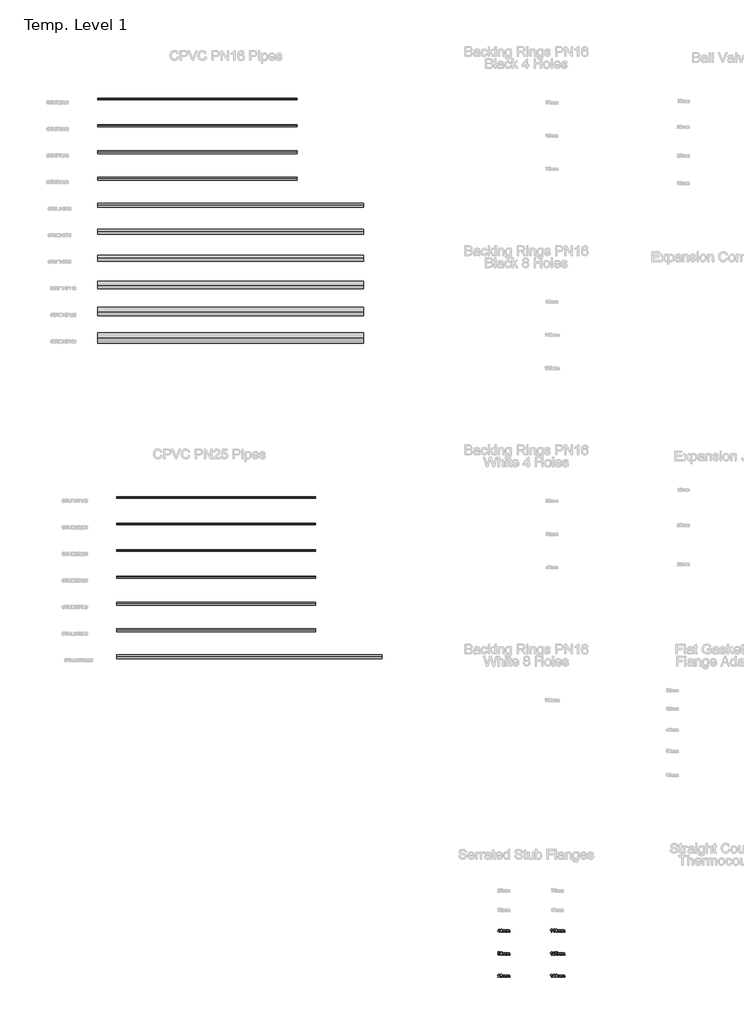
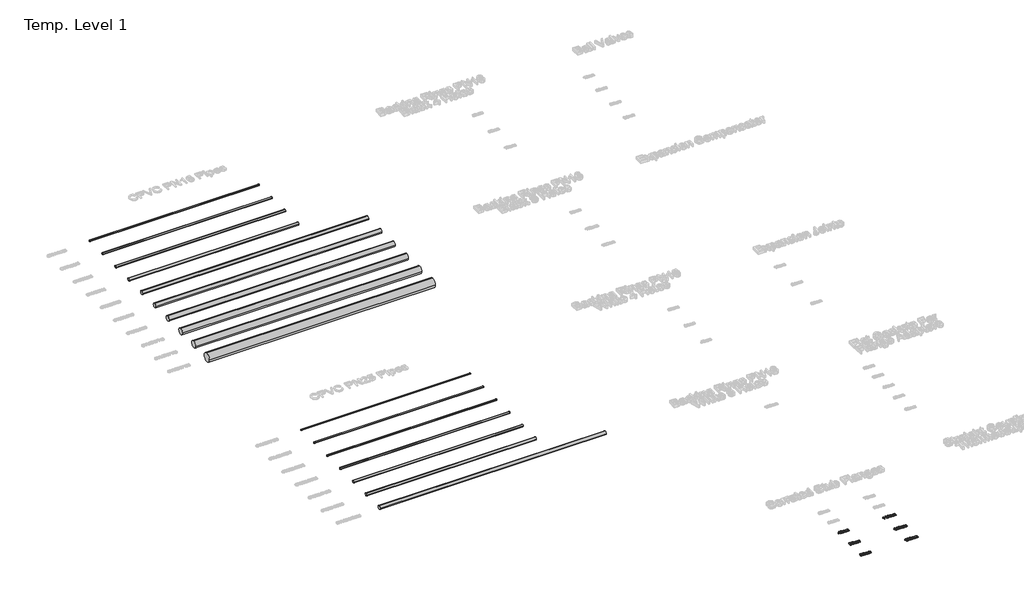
# One storey, part 1 of 62: 17 pipe segments, 6 proxies.
"""IFC4 building model written with IfcOpenShell, lengths in millimetres."""

import ifcopenshell
import ifcopenshell.guid

model = None  # the IFC model being written
_history = None  # IfcOwnerHistory: only IFC2X3 demands one
_inside = {}  # id of a spatial element -> (the spatial element, [elements in it])
_under = {}  # id of a project, library or spatial element -> (it, [spatial elements below it])
_declared = {}  # id of a project -> (the project, [libraries it declares])
_typed = {}  # id of a type object -> (the type object, [elements of that type])
_made_of = {}  # id of a material, layer set ... -> (it, [elements and type objects made of it])


def new_model(schema):
    """Start an empty IFC model of exactly this schema.

    Asked for "IFC4X3", IfcOpenShell would pick the latest addendum, in which some entities
    have other attributes; the version numbers below select the first issue.
    IFC2X3 requires an IfcOwnerHistory on every rooted entity: one is made here for all.
    """
    global model, _history
    if schema == "IFC4X3":
        model = ifcopenshell.file(schema_version=(4, 3, 0, 0))
    else:
        model = ifcopenshell.file(schema=schema)
    _inside.clear()
    _under.clear()
    _declared.clear()
    _typed.clear()
    _made_of.clear()
    _history = None
    if model.schema == "IFC2X3":
        org = make("IfcOrganization", Name="unknown")
        user = make(
            "IfcPersonAndOrganization",
            ThePerson=make("IfcPerson", FamilyName="unknown"),
            TheOrganization=org,
        )
        app = make(
            "IfcApplication",
            ApplicationDeveloper=org,
            Version="unknown",
            ApplicationFullName="unknown",
            ApplicationIdentifier="unknown",
        )
        _history = make(
            "IfcOwnerHistory",
            OwningUser=user,
            OwningApplication=app,
            ChangeAction="ADDED",
            CreationDate=0,
        )
    return model


def make(cls, **values):
    """One entity of the class cls with the attributes given. An attribute that is None is left unset."""
    return model.create_entity(
        cls, **{name: value for name, value in values.items() if value is not None}
    )


def rooted(cls, **values):
    """An entity with a GlobalId (a new one), such as an element, a storey or a relation."""
    return make(cls, GlobalId=ifcopenshell.guid.new(), OwnerHistory=_history, **values)


def si_unit(unit_type, name, prefix=None):
    """IfcSIUnit, for example si_unit("LENGTHUNIT", "METRE", prefix="MILLI")."""
    return make("IfcSIUnit", UnitType=unit_type, Prefix=prefix, Name=name)


def assignment(units):
    """IfcUnitAssignment: the units of a project."""
    return None if units is None else make("IfcUnitAssignment", Units=units)


def point(xyz):
    """IfcCartesianPoint."""
    return None if xyz is None else make("IfcCartesianPoint", Coordinates=xyz)


def direction(xyz):
    """IfcDirection."""
    return None if xyz is None else make("IfcDirection", DirectionRatios=xyz)


def frame(location, z_axis=None, x_axis=None):
    """IfcAxis2Placement3D, a coordinate frame: its origin and axes. An axis left out is left unset."""
    return make(
        "IfcAxis2Placement3D",
        Location=point(location),
        Axis=direction(z_axis),
        RefDirection=direction(x_axis),
    )


def frame_2d(location, x_axis=None):
    """IfcAxis2Placement2D, a coordinate frame in the plane: its origin and x axis."""
    return make(
        "IfcAxis2Placement2D", Location=point(location), RefDirection=direction(x_axis)
    )


def origin():
    """The frame at (0, 0, 0) with its axes left unset."""
    return frame((0.0, 0.0, 0.0))


def origin_with_axes():
    """The frame at (0, 0, 0) with the z axis (0, 0, 1) and the x axis (1, 0, 0) written out."""
    return frame((0.0, 0.0, 0.0), z_axis=(0.0, 0.0, 1.0), x_axis=(1.0, 0.0, 0.0))


def place(relative_to, where):
    """IfcLocalPlacement: puts the frame where relative to a parent placement (None: the world)."""
    return make(
        "IfcLocalPlacement", PlacementRelTo=relative_to, RelativePlacement=where
    )


def context(
    kind, dimensions, precision=None, world=None, true_north=None, identifier=None
):
    """IfcGeometricRepresentationContext, for example the 3D "Model" context."""
    return make(
        "IfcGeometricRepresentationContext",
        ContextIdentifier=identifier,
        ContextType=kind,
        CoordinateSpaceDimension=dimensions,
        Precision=precision,
        WorldCoordinateSystem=world,
        TrueNorth=true_north,
    )


def project(units=None, contexts=None):
    """IfcProject with its units and contexts."""
    return rooted(
        "IfcProject",
        Name="project",
        RepresentationContexts=contexts,
        UnitsInContext=assignment(units),
    )


def spatial(cls, under=None, at=None, **own):
    """A site, building, storey or space (cls), placed at a placement, below another one or the project."""
    s = rooted(cls, ObjectPlacement=at, **own)
    if under is not None:
        _under.setdefault(under.id(), (under, []))[1].append(s)
    return s


def polyline(points):
    """IfcPolyline through the points."""
    return make("IfcPolyline", Points=[point(p) for p in points])


def circle_curve(where, radius):
    """IfcCircle in the frame where."""
    return make("IfcCircle", Position=where, Radius=radius)


def trimmed(basis, trim1, trim2, sense, master):
    """IfcTrimmedCurve: the piece of a basis curve between two trims."""
    return make(
        "IfcTrimmedCurve",
        BasisCurve=basis,
        Trim1=trim1,
        Trim2=trim2,
        SenseAgreement=sense,
        MasterRepresentation=master,
    )


def segment(curve, same_sense, transition):
    """IfcCompositeCurveSegment."""
    return make(
        "IfcCompositeCurveSegment",
        Transition=transition,
        SameSense=same_sense,
        ParentCurve=curve,
    )


def composite_curve(segments, self_intersect=None):
    """IfcCompositeCurve: segments joined end to end."""
    return make("IfcCompositeCurve", Segments=segments, SelfIntersect=self_intersect)


def outline(outer, holes=None, kind="AREA"):
    """IfcArbitraryClosedProfileDef: a profile drawn as a closed curve; with holes, ...WithVoids."""
    if holes is None:
        return make("IfcArbitraryClosedProfileDef", ProfileType=kind, OuterCurve=outer)
    return make(
        "IfcArbitraryProfileDefWithVoids",
        ProfileType=kind,
        OuterCurve=outer,
        InnerCurves=holes,
    )


def extrude(swept, where, along, depth):
    """IfcExtrudedAreaSolid: the profile swept, set in the frame where, extruded along a direction by depth."""
    return make(
        "IfcExtrudedAreaSolid",
        SweptArea=swept,
        Position=where,
        ExtrudedDirection=direction(along),
        Depth=depth,
    )


def shape(context_of_items, identifier, shape_type, items):
    """IfcShapeRepresentation: the items that make up one representation, for example the "Body"."""
    return make(
        "IfcShapeRepresentation",
        ContextOfItems=context_of_items,
        RepresentationIdentifier=identifier,
        RepresentationType=shape_type,
        Items=items,
    )


def made_of(thing, what):
    """Note that an element or type object is made of a material, layer set ...; save() writes the relation."""
    if what is not None:
        _made_of.setdefault(what.id(), (what, []))[1].append(thing)
    return thing


def element(
    cls,
    number,
    at=None,
    inside=None,
    cuts=None,
    type_object=None,
    material=None,
    context=None,
    identifier="Body",
    shape_type=None,
    held_by="IfcProductDefinitionShape",
    body=None,
    shapes=None,
    **own,
):
    """One element of the class cls, such as IfcWall. Its Tag is "e" and its number.

    at: its placement. inside: the storey or other place that contains it. cuts: it is an
    opening in that element (IfcRelVoidsElement). A single representation is given by context,
    identifier, shape_type and body (its items); several are given by shapes. held_by: the class
    of the entity that holds the representations. save() writes the other relations.
    """
    e = rooted(cls, Tag="e%d" % number, ObjectPlacement=at, **own)
    if body is not None:
        shapes = [shape(context, identifier, shape_type, body)]
    if shapes is not None:
        e.Representation = make(held_by, Representations=shapes)
    if inside is not None:
        _inside.setdefault(inside.id(), (inside, []))[1].append(e)
    if cuts is not None:
        rooted(
            "IfcRelVoidsElement", RelatingBuildingElement=cuts, RelatedOpeningElement=e
        )
    if type_object is not None:
        _typed.setdefault(type_object.id(), (type_object, []))[1].append(e)
    return made_of(e, material)


def aggregate(whole, parts):
    """IfcRelAggregates: a whole, such as a stair, and the parts it consists of."""
    return rooted("IfcRelAggregates", RelatingObject=whole, RelatedObjects=parts)


def save(model, path):
    """Write the relations noted so far, then the file.

    IfcRelAggregates (storeys below a building ...), IfcRelContainedInSpatialStructure (elements
    in a storey), IfcRelDefinesByType, IfcRelAssociatesMaterial and IfcRelDeclares: one each for
    every whole, place, type object, material and project.
    """
    for whole, parts in _under.values():
        aggregate(whole, parts)
    for where, things in _inside.values():
        rooted(
            "IfcRelContainedInSpatialStructure",
            RelatedElements=things,
            RelatingStructure=where,
        )
    for kind, things in _typed.values():
        rooted("IfcRelDefinesByType", RelatedObjects=things, RelatingType=kind)
    for what, things in _made_of.values():
        rooted("IfcRelAssociatesMaterial", RelatedObjects=things, RelatingMaterial=what)
    for by, libraries in _declared.values():
        rooted("IfcRelDeclares", RelatingContext=by, RelatedDefinitions=libraries)
    model.write(path)


model = new_model("IFC4")

# Units and contexts
model_context = context("Model", 3, world=origin())
ifc_project = project(units=[si_unit("LENGTHUNIT", "METRE", prefix="MILLI")], contexts=[model_context])

# Site, building, storey
site = spatial("IfcSite", under=ifc_project)
building = spatial("IfcBuilding", under=site)
storey = spatial("IfcBuildingStorey", under=building, Name="Temp. Level 1", Elevation=0.0)

# Proxies
placement = place(None, origin())
element("IfcBuildingElementProxy", 1, Name="50mm Arial", ObjectType="50mm Arial", at=placement, inside=storey, context=model_context, shape_type="SweptSolid", body=[
    extrude(outline(polyline([(9009.112461, -11170.198517), (9009.112461, -11158.6600555), (8986.8047687, -11158.6600555), (8986.8047687, -11152.5062093), (9010.6509225, -11121.7369786), (9015.2663072, -11121.7369786), (9015.2663072, -11152.5062093), (9021.4201533, -11152.5062093), (9021.4201533, -11158.6600555), (9015.2663072, -11158.6600555), (9015.2663072, -11170.198517), (9009.112461, -11170.198517)]), holes=[polyline([(9009.112461, -11152.5062093), (9009.112461, -11133.4917862), (8994.3768841, -11152.5062093), (9009.112461, -11152.5062093)])]), origin_with_axes(), (0.0, 0.0, 1.0), 15.0),
    extrude(outline(polyline([(9026.8047687, -11145.979767), (9028.6136629, -11131.8151036), (9033.9862591, -11123.6480362), (9042.9586149, -11120.9677478), (9050.1461149, -11122.5542862), (9055.1100572, -11127.1276036), (9057.9946725, -11134.4112574), (9059.112461, -11145.979767), (9057.3215956, -11160.0843343), (9051.9670283, -11168.2694305), (9042.9586149, -11170.9677478), (9031.7086149, -11166.2802478), (9028.0307302, -11157.9539257), (9026.8047687, -11145.979767)]), holes=[polyline([(9032.9586149, -11145.9677478), (9035.8432302, -11161.2501997), (9042.9586149, -11164.8139016), (9050.0739995, -11161.2381805), (9052.9586149, -11145.9677478), (9050.1701533, -11130.8595747), (9042.8864995, -11127.1215939), (9035.9393841, -11130.4148632), (9032.9586149, -11145.9677478)])]), origin_with_axes(), (0.0, 0.0, 1.0), 15.0),
    extrude(outline(polyline([(9066.0355379, -11170.198517), (9066.0355379, -11134.0446709), (9072.1893841, -11134.0446709), (9072.1893841, -11139.9941901), (9076.4201533, -11135.120392), (9082.4417879, -11133.2754401), (9088.6076533, -11135.1564497), (9091.9970764, -11140.4268824), (9096.7987591, -11135.0633007), (9102.862461, -11133.2754401), (9110.909336, -11136.2501997), (9113.7278456, -11145.4148632), (9113.7278456, -11170.198517), (9107.5739995, -11170.198517), (9107.5739995, -11148.0590939), (9107.003086, -11142.9208728), (9104.9357783, -11140.3908247), (9101.4201533, -11139.4292862), (9095.3684706, -11141.8932286), (9092.9586149, -11149.7898632), (9092.9586149, -11170.198517), (9086.8047687, -11170.198517), (9086.8047687, -11147.3739978), (9085.3804899, -11141.4124593), (9080.7110187, -11139.4292862), (9076.1557302, -11140.7514016), (9073.1268841, -11144.6215939), (9072.1893841, -11151.9653439), (9072.1893841, -11170.198517), (9066.0355379, -11170.198517)])), origin_with_axes(), (0.0, 0.0, 1.0), 15.0),
    extrude(outline(polyline([(9122.9586149, -11170.198517), (9122.9586149, -11134.0446709), (9129.112461, -11134.0446709), (9129.112461, -11139.9941901), (9133.3432302, -11135.120392), (9139.3648649, -11133.2754401), (9145.5307302, -11135.1564497), (9148.9201533, -11140.4268824), (9153.721836, -11135.0633007), (9159.7855379, -11133.2754401), (9167.8324129, -11136.2501997), (9170.6509225, -11145.4148632), (9170.6509225, -11170.198517), (9164.4970764, -11170.198517), (9164.4970764, -11148.0590939), (9163.9261629, -11142.9208728), (9161.8588552, -11140.3908247), (9158.3432302, -11139.4292862), (9152.2915475, -11141.8932286), (9149.8816918, -11149.7898632), (9149.8816918, -11170.198517), (9143.7278456, -11170.198517), (9143.7278456, -11147.3739978), (9142.3035668, -11141.4124593), (9137.6340956, -11139.4292862), (9133.0788072, -11140.7514016), (9130.049961, -11144.6215939), (9129.112461, -11151.9653439), (9129.112461, -11170.198517), (9122.9586149, -11170.198517)])), origin_with_axes(), (0.0, 0.0, 1.0), 15.0),
])
element("IfcBuildingElementProxy", 2, Name="50mm Arial", ObjectType="50mm Arial", at=placement, inside=storey, context=model_context, shape_type="SweptSolid", body=[
    extrude(outline(polyline([(8989.112461, -11502.1215939), (8995.2663072, -11501.3523632), (8998.3672687, -11507.6925074), (9004.7975572, -11509.8139016), (9012.5139033, -11506.8631805), (9015.2663072, -11499.0326516), (9012.6881822, -11491.7249593), (9004.893711, -11489.0446709), (8999.4910668, -11490.1143824), (8996.0355379, -11492.8908247), (8989.8816918, -11492.1215939), (8995.2663072, -11466.7369786), (9019.112461, -11466.7369786), (9019.112461, -11472.8908247), (9000.2422687, -11472.8908247), (8997.6100572, -11486.448517), (9006.612461, -11482.8908247), (9017.1352975, -11487.3018824), (9021.4201533, -11498.6480362), (9017.5619802, -11510.0663055), (9012.0211149, -11514.4923872), (9004.7735187, -11515.9677478), (8993.9141437, -11512.1756805), (8989.112461, -11502.1215939)])), origin_with_axes(), (0.0, 0.0, 1.0), 15.0),
    extrude(outline(polyline([(9026.8047687, -11490.979767), (9028.6136629, -11476.8151036), (9033.9862591, -11468.6480362), (9042.9586149, -11465.9677478), (9050.1461149, -11467.5542862), (9055.1100572, -11472.1276036), (9057.9946725, -11479.4112574), (9059.112461, -11490.979767), (9057.3215956, -11505.0843343), (9051.9670283, -11513.2694305), (9042.9586149, -11515.9677478), (9031.7086149, -11511.2802478), (9028.0307302, -11502.9539257), (9026.8047687, -11490.979767)]), holes=[polyline([(9032.9586149, -11490.9677478), (9035.8432302, -11506.2501997), (9042.9586149, -11509.8139016), (9050.0739995, -11506.2381805), (9052.9586149, -11490.9677478), (9050.1701533, -11475.8595747), (9042.8864995, -11472.1215939), (9035.9393841, -11475.4148632), (9032.9586149, -11490.9677478)])]), origin_with_axes(), (0.0, 0.0, 1.0), 15.0),
    extrude(outline(polyline([(9066.0355379, -11515.198517), (9066.0355379, -11479.0446709), (9072.1893841, -11479.0446709), (9072.1893841, -11484.9941901), (9076.4201533, -11480.120392), (9082.4417879, -11478.2754401), (9088.6076533, -11480.1564497), (9091.9970764, -11485.4268824), (9096.7987591, -11480.0633007), (9102.862461, -11478.2754401), (9110.909336, -11481.2501997), (9113.7278456, -11490.4148632), (9113.7278456, -11515.198517), (9107.5739995, -11515.198517), (9107.5739995, -11493.0590939), (9107.003086, -11487.9208728), (9104.9357783, -11485.3908247), (9101.4201533, -11484.4292862), (9095.3684706, -11486.8932286), (9092.9586149, -11494.7898632), (9092.9586149, -11515.198517), (9086.8047687, -11515.198517), (9086.8047687, -11492.3739978), (9085.3804899, -11486.4124593), (9080.7110187, -11484.4292862), (9076.1557302, -11485.7514016), (9073.1268841, -11489.6215939), (9072.1893841, -11496.9653439), (9072.1893841, -11515.198517), (9066.0355379, -11515.198517)])), origin_with_axes(), (0.0, 0.0, 1.0), 15.0),
    extrude(outline(polyline([(9122.9586149, -11515.198517), (9122.9586149, -11479.0446709), (9129.112461, -11479.0446709), (9129.112461, -11484.9941901), (9133.3432302, -11480.120392), (9139.3648649, -11478.2754401), (9145.5307302, -11480.1564497), (9148.9201533, -11485.4268824), (9153.721836, -11480.0633007), (9159.7855379, -11478.2754401), (9167.8324129, -11481.2501997), (9170.6509225, -11490.4148632), (9170.6509225, -11515.198517), (9164.4970764, -11515.198517), (9164.4970764, -11493.0590939), (9163.9261629, -11487.9208728), (9161.8588552, -11485.3908247), (9158.3432302, -11484.4292862), (9152.2915475, -11486.8932286), (9149.8816918, -11494.7898632), (9149.8816918, -11515.198517), (9143.7278456, -11515.198517), (9143.7278456, -11492.3739978), (9142.3035668, -11486.4124593), (9137.6340956, -11484.4292862), (9133.0788072, -11485.7514016), (9130.049961, -11489.6215939), (9129.112461, -11496.9653439), (9129.112461, -11515.198517), (9122.9586149, -11515.198517)])), origin_with_axes(), (0.0, 0.0, 1.0), 15.0),
])
element("IfcBuildingElementProxy", 3, Name="50mm Arial", ObjectType="50mm Arial", at=placement, inside=storey, context=model_context, shape_type="SweptSolid", body=[
    extrude(outline(polyline([(9020.6509225, -11814.0446709), (9014.4970764, -11814.8139016), (9012.1653456, -11809.6816901), (9005.9994802, -11807.1215939), (9000.4465956, -11808.6119786), (8996.2458745, -11814.2069305), (8994.4970764, -11825.1744786), (8999.9237591, -11820.2646228), (9006.6485187, -11818.6600555), (9017.1052495, -11823.0470747), (9021.4201533, -11834.3812093), (9019.3889033, -11842.8727959), (9013.799961, -11848.8824112), (9005.7350572, -11850.9677478), (8993.1929899, -11845.4389016), (8989.5556701, -11838.1191901), (8988.3432302, -11827.2177478), (8989.6893841, -11814.9611372), (8993.7278456, -11806.5807286), (8999.2416677, -11802.370993), (9006.3840956, -11800.9677478), (9016.1076533, -11804.4413055), (9020.6509225, -11814.0446709)]), holes=[polyline([(8994.4970764, -11834.2850555), (8995.9213552, -11839.6155843), (8999.7074129, -11843.4857766), (9005.2542879, -11844.8139016), (9012.5078937, -11842.0614978), (9015.2663072, -11834.5855362), (9012.5439514, -11827.4280843), (9005.0018841, -11824.8139016), (8997.5559706, -11827.4280843), (8994.4970764, -11834.2850555)])]), origin_with_axes(), (0.0, 0.0, 1.0), 15.0),
    extrude(outline(polyline([(9026.8047687, -11837.1215939), (9032.9586149, -11836.3523632), (9036.3540475, -11842.8307286), (9042.706211, -11844.8139016), (9050.1821725, -11842.0855362), (9052.9586149, -11835.3307286), (9050.206211, -11828.9665459), (9043.2110187, -11826.448517), (9038.8961149, -11827.1215939), (9039.581211, -11820.9677478), (9047.549961, -11819.2730362), (9050.6509225, -11813.8403439), (9048.4033264, -11809.026642), (9042.6100572, -11807.1215939), (9036.7446725, -11809.0446709), (9033.7278456, -11814.8139016), (9027.5739995, -11814.0446709), (9032.6100572, -11804.3932286), (9042.393711, -11800.9677478), (9049.815586, -11802.6564497), (9055.0078937, -11807.2718343), (9056.8047687, -11813.479767), (9055.0980379, -11819.1528439), (9050.049961, -11823.2273632), (9056.7566918, -11827.4340939), (9059.112461, -11835.4389016), (9054.4009225, -11846.448517), (9042.4898649, -11850.9677478), (9031.6965956, -11847.1095747), (9026.8047687, -11837.1215939)])), origin_with_axes(), (0.0, 0.0, 1.0), 15.0),
    extrude(outline(polyline([(9066.0355379, -11850.198517), (9066.0355379, -11814.0446709), (9072.1893841, -11814.0446709), (9072.1893841, -11819.9941901), (9076.4201533, -11815.120392), (9082.4417879, -11813.2754401), (9088.6076533, -11815.1564497), (9091.9970764, -11820.4268824), (9096.7987591, -11815.0633007), (9102.862461, -11813.2754401), (9110.909336, -11816.2501997), (9113.7278456, -11825.4148632), (9113.7278456, -11850.198517), (9107.5739995, -11850.198517), (9107.5739995, -11828.0590939), (9107.003086, -11822.9208728), (9104.9357783, -11820.3908247), (9101.4201533, -11819.4292862), (9095.3684706, -11821.8932286), (9092.9586149, -11829.7898632), (9092.9586149, -11850.198517), (9086.8047687, -11850.198517), (9086.8047687, -11827.3739978), (9085.3804899, -11821.4124593), (9080.7110187, -11819.4292862), (9076.1557302, -11820.7514016), (9073.1268841, -11824.6215939), (9072.1893841, -11831.9653439), (9072.1893841, -11850.198517), (9066.0355379, -11850.198517)])), origin_with_axes(), (0.0, 0.0, 1.0), 15.0),
    extrude(outline(polyline([(9122.9586149, -11850.198517), (9122.9586149, -11814.0446709), (9129.112461, -11814.0446709), (9129.112461, -11819.9941901), (9133.3432302, -11815.120392), (9139.3648649, -11813.2754401), (9145.5307302, -11815.1564497), (9148.9201533, -11820.4268824), (9153.721836, -11815.0633007), (9159.7855379, -11813.2754401), (9167.8324129, -11816.2501997), (9170.6509225, -11825.4148632), (9170.6509225, -11850.198517), (9164.4970764, -11850.198517), (9164.4970764, -11828.0590939), (9163.9261629, -11822.9208728), (9161.8588552, -11820.3908247), (9158.3432302, -11819.4292862), (9152.2915475, -11821.8932286), (9149.8816918, -11829.7898632), (9149.8816918, -11850.198517), (9143.7278456, -11850.198517), (9143.7278456, -11827.3739978), (9142.3035668, -11821.4124593), (9137.6340956, -11819.4292862), (9133.0788072, -11820.7514016), (9130.049961, -11824.6215939), (9129.112461, -11831.9653439), (9129.112461, -11850.198517), (9122.9586149, -11850.198517)])), origin_with_axes(), (0.0, 0.0, 1.0), 15.0),
])
element("IfcBuildingElementProxy", 4, Name="50mm Arial", ObjectType="50mm Arial", at=placement, inside=storey, context=model_context, shape_type="SweptSolid", body=[
    extrude(outline(polyline([(9803.3432302, -11170.198517), (9797.1893841, -11170.198517), (9797.1893841, -11131.8331324), (9791.3600572, -11135.9857766), (9784.8816918, -11139.0927478), (9784.8816918, -11133.2754401), (9793.9021245, -11127.5182286), (9799.3768841, -11120.9677478), (9803.3432302, -11120.9677478), (9803.3432302, -11170.198517)])), origin_with_axes(), (0.0, 0.0, 1.0), 15.0),
    extrude(outline(polyline([(9841.0355379, -11170.198517), (9834.8816918, -11170.198517), (9834.8816918, -11131.8331324), (9829.0523649, -11135.9857766), (9822.5739995, -11139.0927478), (9822.5739995, -11133.2754401), (9831.5944322, -11127.5182286), (9837.0691918, -11120.9677478), (9841.0355379, -11120.9677478), (9841.0355379, -11170.198517)])), origin_with_axes(), (0.0, 0.0, 1.0), 15.0),
    extrude(outline(polyline([(9855.6509225, -11145.979767), (9857.4598168, -11131.8151036), (9862.8324129, -11123.6480362), (9871.8047687, -11120.9677478), (9878.9922687, -11122.5542862), (9883.956211, -11127.1276036), (9886.8408264, -11134.4112574), (9887.9586149, -11145.979767), (9886.1677495, -11160.0843343), (9880.8131822, -11168.2694305), (9871.8047687, -11170.9677478), (9860.5547687, -11166.2802478), (9856.8768841, -11157.9539257), (9855.6509225, -11145.979767)]), holes=[polyline([(9861.8047687, -11145.9677478), (9864.6893841, -11161.2501997), (9871.8047687, -11164.8139016), (9878.9201533, -11161.2381805), (9881.8047687, -11145.9677478), (9879.0163072, -11130.8595747), (9871.7326533, -11127.1215939), (9864.7855379, -11130.4148632), (9861.8047687, -11145.9677478)])]), origin_with_axes(), (0.0, 0.0, 1.0), 15.0),
    extrude(outline(polyline([(9894.8816918, -11170.198517), (9894.8816918, -11134.0446709), (9901.0355379, -11134.0446709), (9901.0355379, -11139.9941901), (9905.2663072, -11135.120392), (9911.2879418, -11133.2754401), (9917.4538072, -11135.1564497), (9920.8432302, -11140.4268824), (9925.6449129, -11135.0633007), (9931.7086149, -11133.2754401), (9939.7554899, -11136.2501997), (9942.5739995, -11145.4148632), (9942.5739995, -11170.198517), (9936.4201533, -11170.198517), (9936.4201533, -11148.0590939), (9935.8492399, -11142.9208728), (9933.7819322, -11140.3908247), (9930.2663072, -11139.4292862), (9924.2146245, -11141.8932286), (9921.8047687, -11149.7898632), (9921.8047687, -11170.198517), (9915.6509225, -11170.198517), (9915.6509225, -11147.3739978), (9914.2266437, -11141.4124593), (9909.5571725, -11139.4292862), (9905.0018841, -11140.7514016), (9901.9730379, -11144.6215939), (9901.0355379, -11151.9653439), (9901.0355379, -11170.198517), (9894.8816918, -11170.198517)])), origin_with_axes(), (0.0, 0.0, 1.0), 15.0),
    extrude(outline(polyline([(9951.8047687, -11170.198517), (9951.8047687, -11134.0446709), (9957.9586149, -11134.0446709), (9957.9586149, -11139.9941901), (9962.1893841, -11135.120392), (9968.2110187, -11133.2754401), (9974.3768841, -11135.1564497), (9977.7663072, -11140.4268824), (9982.5679899, -11135.0633007), (9988.6316918, -11133.2754401), (9996.6785668, -11136.2501997), (9999.4970764, -11145.4148632), (9999.4970764, -11170.198517), (9993.3432302, -11170.198517), (9993.3432302, -11148.0590939), (9992.7723168, -11142.9208728), (9990.7050091, -11140.3908247), (9987.1893841, -11139.4292862), (9981.1377014, -11141.8932286), (9978.7278456, -11149.7898632), (9978.7278456, -11170.198517), (9972.5739995, -11170.198517), (9972.5739995, -11147.3739978), (9971.1497206, -11141.4124593), (9966.4802495, -11139.4292862), (9961.924961, -11140.7514016), (9958.8961149, -11144.6215939), (9957.9586149, -11151.9653439), (9957.9586149, -11170.198517), (9951.8047687, -11170.198517)])), origin_with_axes(), (0.0, 0.0, 1.0), 15.0),
])
element("IfcBuildingElementProxy", 5, Name="50mm Arial", ObjectType="50mm Arial", at=placement, inside=storey, context=model_context, shape_type="SweptSolid", body=[
    extrude(outline(polyline([(9803.3432302, -11515.198517), (9797.1893841, -11515.198517), (9797.1893841, -11476.8331324), (9791.3600572, -11480.9857766), (9784.8816918, -11484.0927478), (9784.8816918, -11478.2754401), (9793.9021245, -11472.5182286), (9799.3768841, -11465.9677478), (9803.3432302, -11465.9677478), (9803.3432302, -11515.198517)])), origin_with_axes(), (0.0, 0.0, 1.0), 15.0),
    extrude(outline(polyline([(9849.4970764, -11509.0446709), (9849.4970764, -11515.198517), (9817.1893841, -11515.198517), (9817.8504418, -11510.9557286), (9821.5884225, -11504.4232766), (9829.2927495, -11497.2898632), (9839.9177495, -11487.0374593), (9842.5739995, -11480.0663055), (9840.0679899, -11474.4232766), (9833.5235187, -11472.1215939), (9826.7026052, -11474.3691901), (9824.112461, -11480.5831324), (9817.9586149, -11479.8139016), (9822.6761629, -11469.5134209), (9833.6557302, -11465.9677478), (9844.6713552, -11469.9100555), (9848.7278456, -11479.6937093), (9847.6340956, -11485.5290459), (9843.9982783, -11491.5626997), (9835.1821725, -11499.9941901), (9828.1028456, -11505.9136612), (9825.3264033, -11509.0446709), (9849.4970764, -11509.0446709)])), origin_with_axes(), (0.0, 0.0, 1.0), 15.0),
    extrude(outline(polyline([(9855.6509225, -11502.1215939), (9861.8047687, -11501.3523632), (9864.9057302, -11507.6925074), (9871.3360187, -11509.8139016), (9879.0523649, -11506.8631805), (9881.8047687, -11499.0326516), (9879.2266437, -11491.7249593), (9871.4321725, -11489.0446709), (9866.0295283, -11490.1143824), (9862.5739995, -11492.8908247), (9856.4201533, -11492.1215939), (9861.8047687, -11466.7369786), (9885.6509225, -11466.7369786), (9885.6509225, -11472.8908247), (9866.7807302, -11472.8908247), (9864.1485187, -11486.448517), (9873.1509225, -11482.8908247), (9883.6737591, -11487.3018824), (9887.9586149, -11498.6480362), (9884.1004418, -11510.0663055), (9878.5595764, -11514.4923872), (9871.3119802, -11515.9677478), (9860.4526052, -11512.1756805), (9855.6509225, -11502.1215939)])), origin_with_axes(), (0.0, 0.0, 1.0), 15.0),
    extrude(outline(polyline([(9894.8816918, -11515.198517), (9894.8816918, -11479.0446709), (9901.0355379, -11479.0446709), (9901.0355379, -11484.9941901), (9905.2663072, -11480.120392), (9911.2879418, -11478.2754401), (9917.4538072, -11480.1564497), (9920.8432302, -11485.4268824), (9925.6449129, -11480.0633007), (9931.7086149, -11478.2754401), (9939.7554899, -11481.2501997), (9942.5739995, -11490.4148632), (9942.5739995, -11515.198517), (9936.4201533, -11515.198517), (9936.4201533, -11493.0590939), (9935.8492399, -11487.9208728), (9933.7819322, -11485.3908247), (9930.2663072, -11484.4292862), (9924.2146245, -11486.8932286), (9921.8047687, -11494.7898632), (9921.8047687, -11515.198517), (9915.6509225, -11515.198517), (9915.6509225, -11492.3739978), (9914.2266437, -11486.4124593), (9909.5571725, -11484.4292862), (9905.0018841, -11485.7514016), (9901.9730379, -11489.6215939), (9901.0355379, -11496.9653439), (9901.0355379, -11515.198517), (9894.8816918, -11515.198517)])), origin_with_axes(), (0.0, 0.0, 1.0), 15.0),
    extrude(outline(polyline([(9951.8047687, -11515.198517), (9951.8047687, -11479.0446709), (9957.9586149, -11479.0446709), (9957.9586149, -11484.9941901), (9962.1893841, -11480.120392), (9968.2110187, -11478.2754401), (9974.3768841, -11480.1564497), (9977.7663072, -11485.4268824), (9982.5679899, -11480.0633007), (9988.6316918, -11478.2754401), (9996.6785668, -11481.2501997), (9999.4970764, -11490.4148632), (9999.4970764, -11515.198517), (9993.3432302, -11515.198517), (9993.3432302, -11493.0590939), (9992.7723168, -11487.9208728), (9990.7050091, -11485.3908247), (9987.1893841, -11484.4292862), (9981.1377014, -11486.8932286), (9978.7278456, -11494.7898632), (9978.7278456, -11515.198517), (9972.5739995, -11515.198517), (9972.5739995, -11492.3739978), (9971.1497206, -11486.4124593), (9966.4802495, -11484.4292862), (9961.924961, -11485.7514016), (9958.8961149, -11489.6215939), (9957.9586149, -11496.9653439), (9957.9586149, -11515.198517), (9951.8047687, -11515.198517)])), origin_with_axes(), (0.0, 0.0, 1.0), 15.0),
])
element("IfcBuildingElementProxy", 6, Name="50mm Arial", ObjectType="50mm Arial", at=placement, inside=storey, context=model_context, shape_type="SweptSolid", body=[
    extrude(outline(polyline([(9803.3432302, -11850.198517), (9797.1893841, -11850.198517), (9797.1893841, -11811.8331324), (9791.3600572, -11815.9857766), (9784.8816918, -11819.0927478), (9784.8816918, -11813.2754401), (9793.9021245, -11807.5182286), (9799.3768841, -11800.9677478), (9803.3432302, -11800.9677478), (9803.3432302, -11850.198517)])), origin_with_axes(), (0.0, 0.0, 1.0), 15.0),
    extrude(outline(polyline([(9849.4970764, -11814.0446709), (9843.3432302, -11814.8139016), (9841.0114995, -11809.6816901), (9834.8456341, -11807.1215939), (9829.2927495, -11808.6119786), (9825.0920283, -11814.2069305), (9823.3432302, -11825.1744786), (9828.7699129, -11820.2646228), (9835.4946725, -11818.6600555), (9845.9514033, -11823.0470747), (9850.2663072, -11834.3812093), (9848.2350572, -11842.8727959), (9842.6461149, -11848.8824112), (9834.581211, -11850.9677478), (9822.0391437, -11845.4389016), (9818.401824, -11838.1191901), (9817.1893841, -11827.2177478), (9818.5355379, -11814.9611372), (9822.5739995, -11806.5807286), (9828.0878216, -11802.370993), (9835.2302495, -11800.9677478), (9844.9538072, -11804.4413055), (9849.4970764, -11814.0446709)]), holes=[polyline([(9823.3432302, -11834.2850555), (9824.7675091, -11839.6155843), (9828.5535668, -11843.4857766), (9834.1004418, -11844.8139016), (9841.3540475, -11842.0614978), (9844.112461, -11834.5855362), (9841.3901052, -11827.4280843), (9833.8480379, -11824.8139016), (9826.4021245, -11827.4280843), (9823.3432302, -11834.2850555)])]), origin_with_axes(), (0.0, 0.0, 1.0), 15.0),
    extrude(outline(polyline([(9855.6509225, -11825.979767), (9857.4598168, -11811.8151036), (9862.8324129, -11803.6480362), (9871.8047687, -11800.9677478), (9878.9922687, -11802.5542862), (9883.956211, -11807.1276036), (9886.8408264, -11814.4112574), (9887.9586149, -11825.979767), (9886.1677495, -11840.0843343), (9880.8131822, -11848.2694305), (9871.8047687, -11850.9677478), (9860.5547687, -11846.2802478), (9856.8768841, -11837.9539257), (9855.6509225, -11825.979767)]), holes=[polyline([(9861.8047687, -11825.9677478), (9864.6893841, -11841.2501997), (9871.8047687, -11844.8139016), (9878.9201533, -11841.2381805), (9881.8047687, -11825.9677478), (9879.0163072, -11810.8595747), (9871.7326533, -11807.1215939), (9864.7855379, -11810.4148632), (9861.8047687, -11825.9677478)])]), origin_with_axes(), (0.0, 0.0, 1.0), 15.0),
    extrude(outline(polyline([(9894.8816918, -11850.198517), (9894.8816918, -11814.0446709), (9901.0355379, -11814.0446709), (9901.0355379, -11819.9941901), (9905.2663072, -11815.120392), (9911.2879418, -11813.2754401), (9917.4538072, -11815.1564497), (9920.8432302, -11820.4268824), (9925.6449129, -11815.0633007), (9931.7086149, -11813.2754401), (9939.7554899, -11816.2501997), (9942.5739995, -11825.4148632), (9942.5739995, -11850.198517), (9936.4201533, -11850.198517), (9936.4201533, -11828.0590939), (9935.8492399, -11822.9208728), (9933.7819322, -11820.3908247), (9930.2663072, -11819.4292862), (9924.2146245, -11821.8932286), (9921.8047687, -11829.7898632), (9921.8047687, -11850.198517), (9915.6509225, -11850.198517), (9915.6509225, -11827.3739978), (9914.2266437, -11821.4124593), (9909.5571725, -11819.4292862), (9905.0018841, -11820.7514016), (9901.9730379, -11824.6215939), (9901.0355379, -11831.9653439), (9901.0355379, -11850.198517), (9894.8816918, -11850.198517)])), origin_with_axes(), (0.0, 0.0, 1.0), 15.0),
    extrude(outline(polyline([(9951.8047687, -11850.198517), (9951.8047687, -11814.0446709), (9957.9586149, -11814.0446709), (9957.9586149, -11819.9941901), (9962.1893841, -11815.120392), (9968.2110187, -11813.2754401), (9974.3768841, -11815.1564497), (9977.7663072, -11820.4268824), (9982.5679899, -11815.0633007), (9988.6316918, -11813.2754401), (9996.6785668, -11816.2501997), (9999.4970764, -11825.4148632), (9999.4970764, -11850.198517), (9993.3432302, -11850.198517), (9993.3432302, -11828.0590939), (9992.7723168, -11822.9208728), (9990.7050091, -11820.3908247), (9987.1893841, -11819.4292862), (9981.1377014, -11821.8932286), (9978.7278456, -11829.7898632), (9978.7278456, -11850.198517), (9972.5739995, -11850.198517), (9972.5739995, -11827.3739978), (9971.1497206, -11821.4124593), (9966.4802495, -11819.4292862), (9961.924961, -11820.7514016), (9958.8961149, -11824.6215939), (9957.9586149, -11831.9653439), (9957.9586149, -11850.198517), (9951.8047687, -11850.198517)])), origin_with_axes(), (0.0, 0.0, 1.0), 15.0),
])

# Pipe segments
element("IfcPipeSegment", 7, ObjectType="Durapipe-HTA-PN25", at=placement, inside=storey, context=model_context, shape_type="SweptSolid", body=[
    extrude(outline(composite_curve([segment(trimmed(circle_curve(frame_2d((-4622.729258, 0.0)), 8.0), [point((-4630.729258, 0.0))], [point((-4622.729258, 8.0))], False, "CARTESIAN"), True, "CONTINUOUS"), segment(trimmed(circle_curve(frame_2d((-4622.729258, 0.0)), 8.0), [point((-4622.729258, 8.0))], [point((-4614.729258, 0.0))], False, "CARTESIAN"), True, "CONTINUOUS"), segment(trimmed(circle_curve(frame_2d((-4622.729258, 0.0)), 8.0), [point((-4614.729258, 0.0))], [point((-4622.729258, -8.0))], False, "CARTESIAN"), True, "CONTINUOUS"), segment(trimmed(circle_curve(frame_2d((-4622.729258, 0.0)), 8.0), [point((-4622.729258, -8.0))], [point((-4630.729258, 0.0))], False, "CARTESIAN"), True, "CONTINUOUS")], self_intersect=False)), frame((3243.787467, 0.0, 0.0), z_axis=(1.0, 0.0, 0.0), x_axis=(0.0, 1.0, 0.0)), (0.0, 0.0, 1.0), 3000.0),
])
element("IfcPipeSegment", 8, ObjectType="Durapipe-HTA-PN25", at=placement, inside=storey, context=model_context, shape_type="SweptSolid", body=[
    extrude(outline(composite_curve([segment(trimmed(circle_curve(frame_2d((-5022.729258, 0.0)), 10.0), [point((-5032.729258, 0.0))], [point((-5022.729258, 10.0))], False, "CARTESIAN"), True, "CONTINUOUS"), segment(trimmed(circle_curve(frame_2d((-5022.729258, 0.0)), 10.0), [point((-5022.729258, 10.0))], [point((-5012.729258, 0.0))], False, "CARTESIAN"), True, "CONTINUOUS"), segment(trimmed(circle_curve(frame_2d((-5022.729258, 0.0)), 10.0), [point((-5012.729258, 0.0))], [point((-5022.729258, -10.0))], False, "CARTESIAN"), True, "CONTINUOUS"), segment(trimmed(circle_curve(frame_2d((-5022.729258, 0.0)), 10.0), [point((-5022.729258, -10.0))], [point((-5032.729258, 0.0))], False, "CARTESIAN"), True, "CONTINUOUS")], self_intersect=False)), frame((3243.787467, 0.0, 0.0), z_axis=(1.0, 0.0, 0.0), x_axis=(0.0, 1.0, 0.0)), (0.0, 0.0, 1.0), 3000.0),
])
element("IfcPipeSegment", 9, ObjectType="Durapipe-HTA-PN25", at=placement, inside=storey, context=model_context, shape_type="SweptSolid", body=[
    extrude(outline(composite_curve([segment(trimmed(circle_curve(frame_2d((-5422.729258, 0.0)), 12.5), [point((-5435.229258, 0.0))], [point((-5422.729258, 12.5))], False, "CARTESIAN"), True, "CONTINUOUS"), segment(trimmed(circle_curve(frame_2d((-5422.729258, 0.0)), 12.5), [point((-5422.729258, 12.5))], [point((-5410.229258, 0.0))], False, "CARTESIAN"), True, "CONTINUOUS"), segment(trimmed(circle_curve(frame_2d((-5422.729258, 0.0)), 12.5), [point((-5410.229258, 0.0))], [point((-5422.729258, -12.5))], False, "CARTESIAN"), True, "CONTINUOUS"), segment(trimmed(circle_curve(frame_2d((-5422.729258, 0.0)), 12.5), [point((-5422.729258, -12.5))], [point((-5435.229258, 0.0))], False, "CARTESIAN"), True, "CONTINUOUS")], self_intersect=False)), frame((3243.787467, 0.0, 0.0), z_axis=(1.0, 0.0, 0.0), x_axis=(0.0, 1.0, 0.0)), (0.0, 0.0, 1.0), 3000.0),
])
element("IfcPipeSegment", 10, ObjectType="Durapipe-HTA-PN25", at=placement, inside=storey, context=model_context, shape_type="SweptSolid", body=[
    extrude(outline(composite_curve([segment(trimmed(circle_curve(frame_2d((-5822.729258, 0.0)), 16.0), [point((-5838.729258, 0.0))], [point((-5822.729258, 16.0))], False, "CARTESIAN"), True, "CONTINUOUS"), segment(trimmed(circle_curve(frame_2d((-5822.729258, 0.0)), 16.0), [point((-5822.729258, 16.0))], [point((-5806.729258, 0.0))], False, "CARTESIAN"), True, "CONTINUOUS"), segment(trimmed(circle_curve(frame_2d((-5822.729258, 0.0)), 16.0), [point((-5806.729258, 0.0))], [point((-5822.729258, -16.0))], False, "CARTESIAN"), True, "CONTINUOUS"), segment(trimmed(circle_curve(frame_2d((-5822.729258, 0.0)), 16.0), [point((-5822.729258, -16.0))], [point((-5838.729258, 0.0))], False, "CARTESIAN"), True, "CONTINUOUS")], self_intersect=False)), frame((3243.787467, 0.0, 0.0), z_axis=(1.0, 0.0, 0.0), x_axis=(0.0, 1.0, 0.0)), (0.0, 0.0, 1.0), 3000.0),
])
element("IfcPipeSegment", 11, ObjectType="Durapipe-HTA-PN25", at=placement, inside=storey, context=model_context, shape_type="SweptSolid", body=[
    extrude(outline(composite_curve([segment(trimmed(circle_curve(frame_2d((-6222.729258, 0.0)), 20.0), [point((-6242.729258, 0.0))], [point((-6222.729258, 20.0))], False, "CARTESIAN"), True, "CONTINUOUS"), segment(trimmed(circle_curve(frame_2d((-6222.729258, 0.0)), 20.0), [point((-6222.729258, 20.0))], [point((-6202.729258, 0.0))], False, "CARTESIAN"), True, "CONTINUOUS"), segment(trimmed(circle_curve(frame_2d((-6222.729258, 0.0)), 20.0), [point((-6202.729258, 0.0))], [point((-6222.729258, -20.0))], False, "CARTESIAN"), True, "CONTINUOUS"), segment(trimmed(circle_curve(frame_2d((-6222.729258, 0.0)), 20.0), [point((-6222.729258, -20.0))], [point((-6242.729258, 0.0))], False, "CARTESIAN"), True, "CONTINUOUS")], self_intersect=False)), frame((3243.787467, 0.0, 0.0), z_axis=(1.0, 0.0, 0.0), x_axis=(0.0, 1.0, 0.0)), (0.0, 0.0, 1.0), 3000.0),
])
element("IfcPipeSegment", 12, ObjectType="Durapipe-HTA-PN25", at=placement, inside=storey, context=model_context, shape_type="SweptSolid", body=[
    extrude(outline(composite_curve([segment(trimmed(circle_curve(frame_2d((-6622.729258, 0.0)), 25.0), [point((-6647.729258, 0.0))], [point((-6622.729258, 25.0))], False, "CARTESIAN"), True, "CONTINUOUS"), segment(trimmed(circle_curve(frame_2d((-6622.729258, 0.0)), 25.0), [point((-6622.729258, 25.0))], [point((-6597.729258, 0.0))], False, "CARTESIAN"), True, "CONTINUOUS"), segment(trimmed(circle_curve(frame_2d((-6622.729258, 0.0)), 25.0), [point((-6597.729258, 0.0))], [point((-6622.729258, -25.0))], False, "CARTESIAN"), True, "CONTINUOUS"), segment(trimmed(circle_curve(frame_2d((-6622.729258, 0.0)), 25.0), [point((-6622.729258, -25.0))], [point((-6647.729258, 0.0))], False, "CARTESIAN"), True, "CONTINUOUS")], self_intersect=False)), frame((3243.787467, 0.0, 0.0), z_axis=(1.0, 0.0, 0.0), x_axis=(0.0, 1.0, 0.0)), (0.0, 0.0, 1.0), 3000.0),
])
element("IfcPipeSegment", 13, ObjectType="Durapipe-HTA-PN25", at=placement, inside=storey, context=model_context, shape_type="SweptSolid", body=[
    extrude(outline(composite_curve([segment(trimmed(circle_curve(frame_2d((-7022.729258, 0.0)), 31.5), [point((-7054.229258, 0.0))], [point((-7022.729258, 31.5))], False, "CARTESIAN"), True, "CONTINUOUS"), segment(trimmed(circle_curve(frame_2d((-7022.729258, 0.0)), 31.5), [point((-7022.729258, 31.5))], [point((-6991.229258, 0.0))], False, "CARTESIAN"), True, "CONTINUOUS"), segment(trimmed(circle_curve(frame_2d((-7022.729258, 0.0)), 31.5), [point((-6991.229258, 0.0))], [point((-7022.729258, -31.5))], False, "CARTESIAN"), True, "CONTINUOUS"), segment(trimmed(circle_curve(frame_2d((-7022.729258, 0.0)), 31.5), [point((-7022.729258, -31.5))], [point((-7054.229258, 0.0))], False, "CARTESIAN"), True, "CONTINUOUS")], self_intersect=False)), frame((3243.787467, 0.0, 0.0), z_axis=(1.0, 0.0, 0.0), x_axis=(0.0, 1.0, 0.0)), (0.0, 0.0, 1.0), 4000.0),
])
element("IfcPipeSegment", 14, ObjectType="Durapipe-HTA-PN16", at=placement, inside=storey, context=model_context, shape_type="SweptSolid", body=[
    extrude(outline(composite_curve([segment(trimmed(circle_curve(frame_2d((1377.270742, 0.0)), 12.5), [point((1364.770742, 0.0))], [point((1377.270742, 12.5))], False, "CARTESIAN"), True, "CONTINUOUS"), segment(trimmed(circle_curve(frame_2d((1377.270742, 0.0)), 12.5), [point((1377.270742, 12.5))], [point((1389.770742, 0.0))], False, "CARTESIAN"), True, "CONTINUOUS"), segment(trimmed(circle_curve(frame_2d((1377.270742, 0.0)), 12.5), [point((1389.770742, 0.0))], [point((1377.270742, -12.5))], False, "CARTESIAN"), True, "CONTINUOUS"), segment(trimmed(circle_curve(frame_2d((1377.270742, 0.0)), 12.5), [point((1377.270742, -12.5))], [point((1364.770742, 0.0))], False, "CARTESIAN"), True, "CONTINUOUS")], self_intersect=False)), frame((2963.787467, 0.0, 0.0), z_axis=(1.0, 0.0, 0.0), x_axis=(0.0, 1.0, 0.0)), (0.0, 0.0, 1.0), 3000.0),
])
element("IfcPipeSegment", 15, ObjectType="Durapipe-HTA-PN16", at=placement, inside=storey, context=model_context, shape_type="SweptSolid", body=[
    extrude(outline(composite_curve([segment(trimmed(circle_curve(frame_2d((977.270742, 0.0)), 16.0), [point((961.270742, 0.0))], [point((977.270742, 16.0))], False, "CARTESIAN"), True, "CONTINUOUS"), segment(trimmed(circle_curve(frame_2d((977.270742, 0.0)), 16.0), [point((977.270742, 16.0))], [point((993.270742, 0.0))], False, "CARTESIAN"), True, "CONTINUOUS"), segment(trimmed(circle_curve(frame_2d((977.270742, 0.0)), 16.0), [point((993.270742, 0.0))], [point((977.270742, -16.0))], False, "CARTESIAN"), True, "CONTINUOUS"), segment(trimmed(circle_curve(frame_2d((977.270742, 0.0)), 16.0), [point((977.270742, -16.0))], [point((961.270742, 0.0))], False, "CARTESIAN"), True, "CONTINUOUS")], self_intersect=False)), frame((2963.787467, 0.0, 0.0), z_axis=(1.0, 0.0, 0.0), x_axis=(0.0, 1.0, 0.0)), (0.0, 0.0, 1.0), 3000.0),
])
element("IfcPipeSegment", 16, ObjectType="Durapipe-HTA-PN16", at=placement, inside=storey, context=model_context, shape_type="SweptSolid", body=[
    extrude(outline(composite_curve([segment(trimmed(circle_curve(frame_2d((577.270742, 0.0)), 20.0), [point((557.270742, 0.0))], [point((577.270742, 20.0))], False, "CARTESIAN"), True, "CONTINUOUS"), segment(trimmed(circle_curve(frame_2d((577.270742, 0.0)), 20.0), [point((577.270742, 20.0))], [point((597.270742, 0.0))], False, "CARTESIAN"), True, "CONTINUOUS"), segment(trimmed(circle_curve(frame_2d((577.270742, 0.0)), 20.0), [point((597.270742, 0.0))], [point((577.270742, -20.0))], False, "CARTESIAN"), True, "CONTINUOUS"), segment(trimmed(circle_curve(frame_2d((577.270742, 0.0)), 20.0), [point((577.270742, -20.0))], [point((557.270742, 0.0))], False, "CARTESIAN"), True, "CONTINUOUS")], self_intersect=False)), frame((2963.787467, 0.0, 0.0), z_axis=(1.0, 0.0, 0.0), x_axis=(0.0, 1.0, 0.0)), (0.0, 0.0, 1.0), 3000.0),
])
element("IfcPipeSegment", 17, ObjectType="Durapipe-HTA-PN16", at=placement, inside=storey, context=model_context, shape_type="SweptSolid", body=[
    extrude(outline(composite_curve([segment(trimmed(circle_curve(frame_2d((177.270742, 0.0)), 25.0), [point((152.270742, 0.0))], [point((177.270742, 25.0))], False, "CARTESIAN"), True, "CONTINUOUS"), segment(trimmed(circle_curve(frame_2d((177.270742, 0.0)), 25.0), [point((177.270742, 25.0))], [point((202.270742, 0.0))], False, "CARTESIAN"), True, "CONTINUOUS"), segment(trimmed(circle_curve(frame_2d((177.270742, 0.0)), 25.0), [point((202.270742, 0.0))], [point((177.270742, -25.0))], False, "CARTESIAN"), True, "CONTINUOUS"), segment(trimmed(circle_curve(frame_2d((177.270742, 0.0)), 25.0), [point((177.270742, -25.0))], [point((152.270742, 0.0))], False, "CARTESIAN"), True, "CONTINUOUS")], self_intersect=False)), frame((2963.787467, 0.0, 0.0), z_axis=(1.0, 0.0, 0.0), x_axis=(0.0, 1.0, 0.0)), (0.0, 0.0, 1.0), 3000.0),
])
element("IfcPipeSegment", 18, ObjectType="Durapipe-HTA-PN16", at=placement, inside=storey, context=model_context, shape_type="SweptSolid", body=[
    extrude(outline(composite_curve([segment(trimmed(circle_curve(frame_2d((-222.729258, 0.0)), 31.5), [point((-254.229258, 0.0))], [point((-222.729258, 31.5))], False, "CARTESIAN"), True, "CONTINUOUS"), segment(trimmed(circle_curve(frame_2d((-222.729258, 0.0)), 31.5), [point((-222.729258, 31.5))], [point((-191.229258, 0.0))], False, "CARTESIAN"), True, "CONTINUOUS"), segment(trimmed(circle_curve(frame_2d((-222.729258, 0.0)), 31.5), [point((-191.229258, 0.0))], [point((-222.729258, -31.5))], False, "CARTESIAN"), True, "CONTINUOUS"), segment(trimmed(circle_curve(frame_2d((-222.729258, 0.0)), 31.5), [point((-222.729258, -31.5))], [point((-254.229258, 0.0))], False, "CARTESIAN"), True, "CONTINUOUS")], self_intersect=False)), frame((2963.787467, 0.0, 0.0), z_axis=(1.0, 0.0, 0.0), x_axis=(0.0, 1.0, 0.0)), (0.0, 0.0, 1.0), 4000.0),
])
element("IfcPipeSegment", 19, ObjectType="Durapipe-HTA-PN16", at=placement, inside=storey, context=model_context, shape_type="SweptSolid", body=[
    extrude(outline(composite_curve([segment(trimmed(circle_curve(frame_2d((-622.729258, 0.0)), 37.5), [point((-660.229258, 0.0))], [point((-622.729258, 37.5))], False, "CARTESIAN"), True, "CONTINUOUS"), segment(trimmed(circle_curve(frame_2d((-622.729258, 0.0)), 37.5), [point((-622.729258, 37.5))], [point((-585.229258, 0.0))], False, "CARTESIAN"), True, "CONTINUOUS"), segment(trimmed(circle_curve(frame_2d((-622.729258, 0.0)), 37.5), [point((-585.229258, 0.0))], [point((-622.729258, -37.5))], False, "CARTESIAN"), True, "CONTINUOUS"), segment(trimmed(circle_curve(frame_2d((-622.729258, 0.0)), 37.5), [point((-622.729258, -37.5))], [point((-660.229258, 0.0))], False, "CARTESIAN"), True, "CONTINUOUS")], self_intersect=False)), frame((2963.787467, 0.0, 0.0), z_axis=(1.0, 0.0, 0.0), x_axis=(0.0, 1.0, 0.0)), (0.0, 0.0, 1.0), 4000.0),
])
element("IfcPipeSegment", 20, ObjectType="Durapipe-HTA-PN16", at=placement, inside=storey, context=model_context, shape_type="SweptSolid", body=[
    extrude(outline(composite_curve([segment(trimmed(circle_curve(frame_2d((-1022.729258, 0.0)), 45.0), [point((-1067.729258, 0.0))], [point((-1022.729258, 45.0))], False, "CARTESIAN"), True, "CONTINUOUS"), segment(trimmed(circle_curve(frame_2d((-1022.729258, 0.0)), 45.0), [point((-1022.729258, 45.0))], [point((-977.729258, 0.0))], False, "CARTESIAN"), True, "CONTINUOUS"), segment(trimmed(circle_curve(frame_2d((-1022.729258, 0.0)), 45.0), [point((-977.729258, 0.0))], [point((-1022.729258, -45.0))], False, "CARTESIAN"), True, "CONTINUOUS"), segment(trimmed(circle_curve(frame_2d((-1022.729258, 0.0)), 45.0), [point((-1022.729258, -45.0))], [point((-1067.729258, 0.0))], False, "CARTESIAN"), True, "CONTINUOUS")], self_intersect=False)), frame((2963.787467, 0.0, 0.0), z_axis=(1.0, 0.0, 0.0), x_axis=(0.0, 1.0, 0.0)), (0.0, 0.0, 1.0), 4000.0),
])
element("IfcPipeSegment", 21, ObjectType="Durapipe-HTA-PN16", at=placement, inside=storey, context=model_context, shape_type="SweptSolid", body=[
    extrude(outline(composite_curve([segment(trimmed(circle_curve(frame_2d((-1422.729258, 0.0)), 55.0), [point((-1477.729258, 0.0))], [point((-1422.729258, 55.0))], False, "CARTESIAN"), True, "CONTINUOUS"), segment(trimmed(circle_curve(frame_2d((-1422.729258, 0.0)), 55.0), [point((-1422.729258, 55.0))], [point((-1367.729258, 0.0))], False, "CARTESIAN"), True, "CONTINUOUS"), segment(trimmed(circle_curve(frame_2d((-1422.729258, 0.0)), 55.0), [point((-1367.729258, 0.0))], [point((-1422.729258, -55.0))], False, "CARTESIAN"), True, "CONTINUOUS"), segment(trimmed(circle_curve(frame_2d((-1422.729258, 0.0)), 55.0), [point((-1422.729258, -55.0))], [point((-1477.729258, 0.0))], False, "CARTESIAN"), True, "CONTINUOUS")], self_intersect=False)), frame((2963.787467, 0.0, 0.0), z_axis=(1.0, 0.0, 0.0), x_axis=(0.0, 1.0, 0.0)), (0.0, 0.0, 1.0), 4000.0),
])
element("IfcPipeSegment", 22, ObjectType="Durapipe-HTA-PN16", at=placement, inside=storey, context=model_context, shape_type="SweptSolid", body=[
    extrude(outline(composite_curve([segment(trimmed(circle_curve(frame_2d((-1822.729258, 0.0)), 62.5), [point((-1885.229258, 0.0))], [point((-1822.729258, 62.5))], False, "CARTESIAN"), True, "CONTINUOUS"), segment(trimmed(circle_curve(frame_2d((-1822.729258, 0.0)), 62.5), [point((-1822.729258, 62.5))], [point((-1760.229258, 0.0))], False, "CARTESIAN"), True, "CONTINUOUS"), segment(trimmed(circle_curve(frame_2d((-1822.729258, 0.0)), 62.5), [point((-1760.229258, 0.0))], [point((-1822.729258, -62.5))], False, "CARTESIAN"), True, "CONTINUOUS"), segment(trimmed(circle_curve(frame_2d((-1822.729258, 0.0)), 62.5), [point((-1822.729258, -62.5))], [point((-1885.229258, 0.0))], False, "CARTESIAN"), True, "CONTINUOUS")], self_intersect=False)), frame((2963.787467, 0.0, 0.0), z_axis=(1.0, 0.0, 0.0), x_axis=(0.0, 1.0, 0.0)), (0.0, 0.0, 1.0), 4000.0),
])
element("IfcPipeSegment", 23, ObjectType="Durapipe-HTA-PN16", at=placement, inside=storey, context=model_context, shape_type="SweptSolid", body=[
    extrude(outline(composite_curve([segment(trimmed(circle_curve(frame_2d((-2222.729258, 0.0)), 80.0), [point((-2302.729258, 0.0))], [point((-2222.729258, 80.0))], False, "CARTESIAN"), True, "CONTINUOUS"), segment(trimmed(circle_curve(frame_2d((-2222.729258, 0.0)), 80.0), [point((-2222.729258, 80.0))], [point((-2142.729258, 0.0))], False, "CARTESIAN"), True, "CONTINUOUS"), segment(trimmed(circle_curve(frame_2d((-2222.729258, 0.0)), 80.0), [point((-2142.729258, 0.0))], [point((-2222.729258, -80.0))], False, "CARTESIAN"), True, "CONTINUOUS"), segment(trimmed(circle_curve(frame_2d((-2222.729258, 0.0)), 80.0), [point((-2222.729258, -80.0))], [point((-2302.729258, 0.0))], False, "CARTESIAN"), True, "CONTINUOUS")], self_intersect=False)), frame((2963.787467, 0.0, 0.0), z_axis=(1.0, 0.0, 0.0), x_axis=(0.0, 1.0, 0.0)), (0.0, 0.0, 1.0), 4000.0),
])

save(model, "model.ifc")
